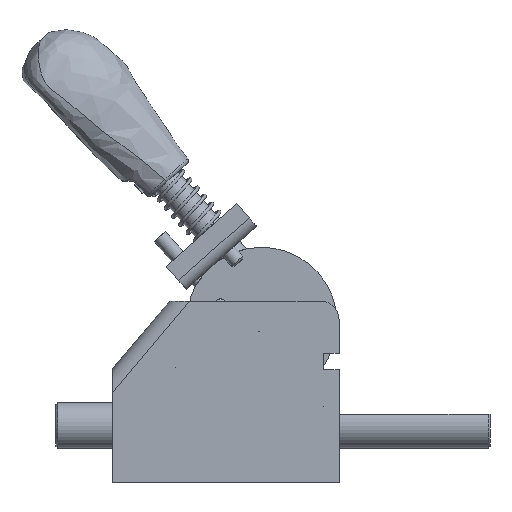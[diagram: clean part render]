
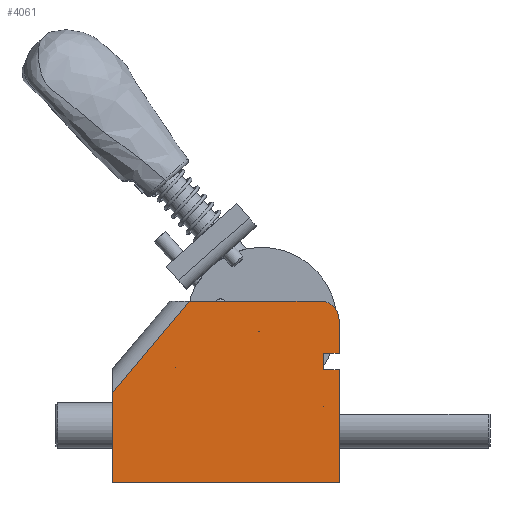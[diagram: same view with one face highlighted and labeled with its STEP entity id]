
A CAD part, top view. The second image highlights one B-rep face of the part: STEP entity #4061.
In plain terms, the highlighted planar face has unit normal (0, 0, 1).
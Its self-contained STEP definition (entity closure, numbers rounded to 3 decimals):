
#314=FACE_BOUND('',#782,.T.);
#315=FACE_BOUND('',#783,.T.);
#316=FACE_BOUND('',#784,.T.);
#367=CIRCLE('',#4475,5.);
#368=CIRCLE('',#4476,0.005);
#369=CIRCLE('',#4477,0.005);
#370=CIRCLE('',#4478,0.005);
#554=FACE_OUTER_BOUND('',#781,.T.);
#781=EDGE_LOOP('',(#2753,#2754,#2755,#2756,#2757,#2758,#2759,#2760,#2761,
#2762));
#782=EDGE_LOOP('',(#2763));
#783=EDGE_LOOP('',(#2764));
#784=EDGE_LOOP('',(#2765));
#1051=LINE('',#6021,#1374);
#1059=LINE('',#6037,#1382);
#1065=LINE('',#6049,#1388);
#1074=LINE('',#6074,#1397);
#1075=LINE('',#6078,#1398);
#1076=LINE('',#6080,#1399);
#1077=LINE('',#6082,#1400);
#1078=LINE('',#6084,#1401);
#1079=LINE('',#6085,#1402);
#1374=VECTOR('',#4879,10.);
#1382=VECTOR('',#4891,10.);
#1388=VECTOR('',#4901,10.);
#1397=VECTOR('',#4922,10.);
#1398=VECTOR('',#4925,10.);
#1399=VECTOR('',#4926,10.);
#1400=VECTOR('',#4927,10.);
#1401=VECTOR('',#4928,10.);
#1402=VECTOR('',#4929,10.);
#1697=VERTEX_POINT('',#6018);
#1698=VERTEX_POINT('',#6020);
#1704=VERTEX_POINT('',#6035);
#1708=VERTEX_POINT('',#6047);
#1718=VERTEX_POINT('',#6073);
#1719=VERTEX_POINT('',#6075);
#1720=VERTEX_POINT('',#6077);
#1721=VERTEX_POINT('',#6079);
#1722=VERTEX_POINT('',#6081);
#1723=VERTEX_POINT('',#6083);
#1724=VERTEX_POINT('',#6086);
#1725=VERTEX_POINT('',#6088);
#1726=VERTEX_POINT('',#6090);
#2106=EDGE_CURVE('',#1698,#1697,#1051,.T.);
#2114=EDGE_CURVE('',#1697,#1704,#1059,.T.);
#2120=EDGE_CURVE('',#1704,#1708,#1065,.T.);
#2132=EDGE_CURVE('',#1718,#1708,#1074,.T.);
#2133=EDGE_CURVE('',#1719,#1718,#367,.T.);
#2134=EDGE_CURVE('',#1720,#1719,#1075,.T.);
#2135=EDGE_CURVE('',#1721,#1720,#1076,.T.);
#2136=EDGE_CURVE('',#1722,#1721,#1077,.T.);
#2137=EDGE_CURVE('',#1723,#1722,#1078,.T.);
#2138=EDGE_CURVE('',#1698,#1723,#1079,.T.);
#2139=EDGE_CURVE('',#1724,#1724,#368,.T.);
#2140=EDGE_CURVE('',#1725,#1725,#369,.T.);
#2141=EDGE_CURVE('',#1726,#1726,#370,.T.);
#2753=ORIENTED_EDGE('',*,*,#2106,.T.);
#2754=ORIENTED_EDGE('',*,*,#2114,.T.);
#2755=ORIENTED_EDGE('',*,*,#2120,.T.);
#2756=ORIENTED_EDGE('',*,*,#2132,.F.);
#2757=ORIENTED_EDGE('',*,*,#2133,.F.);
#2758=ORIENTED_EDGE('',*,*,#2134,.F.);
#2759=ORIENTED_EDGE('',*,*,#2135,.F.);
#2760=ORIENTED_EDGE('',*,*,#2136,.F.);
#2761=ORIENTED_EDGE('',*,*,#2137,.F.);
#2762=ORIENTED_EDGE('',*,*,#2138,.F.);
#2763=ORIENTED_EDGE('',*,*,#2139,.T.);
#2764=ORIENTED_EDGE('',*,*,#2140,.T.);
#2765=ORIENTED_EDGE('',*,*,#2141,.T.);
#3953=PLANE('',#4474);
#4061=ADVANCED_FACE('',(#554,#314,#315,#316),#3953,.T.);
#4474=AXIS2_PLACEMENT_3D('',#6072,#4920,#4921);
#4475=AXIS2_PLACEMENT_3D('',#6076,#4923,#4924);
#4476=AXIS2_PLACEMENT_3D('',#6087,#4930,#4931);
#4477=AXIS2_PLACEMENT_3D('',#6089,#4932,#4933);
#4478=AXIS2_PLACEMENT_3D('',#6091,#4934,#4935);
#4879=DIRECTION('',(-1.,0.,0.));
#4891=DIRECTION('',(0.,1.,0.));
#4901=DIRECTION('',(1.,0.,0.));
#4920=DIRECTION('center_axis',(0.,0.,1.));
#4921=DIRECTION('ref_axis',(1.,0.,0.));
#4922=DIRECTION('',(0.,-1.,0.));
#4923=DIRECTION('center_axis',(0.,0.,-1.));
#4924=DIRECTION('ref_axis',(0.707,0.707,0.));
#4925=DIRECTION('',(1.,0.,0.));
#4926=DIRECTION('',(0.643,0.766,0.));
#4927=DIRECTION('',(0.,1.,0.));
#4928=DIRECTION('',(-1.,0.,0.));
#4929=DIRECTION('',(0.,-1.,0.));
#4930=DIRECTION('center_axis',(0.,0.,-1.));
#4931=DIRECTION('ref_axis',(-1.,0.,0.));
#4932=DIRECTION('center_axis',(0.,0.,-1.));
#4933=DIRECTION('ref_axis',(-1.,0.,0.));
#4934=DIRECTION('center_axis',(0.,0.,-1.));
#4935=DIRECTION('ref_axis',(-1.,0.,0.));
#6018=CARTESIAN_POINT('',(21.411,4.735,20.));
#6020=CARTESIAN_POINT('',(25.411,4.735,20.));
#6021=CARTESIAN_POINT('',(9.262,4.735,20.));
#6035=CARTESIAN_POINT('',(21.411,9.135,20.));
#6037=CARTESIAN_POINT('',(21.411,3.357,20.));
#6047=CARTESIAN_POINT('',(25.411,9.135,20.));
#6049=CARTESIAN_POINT('',(11.262,9.135,20.));
#6072=CARTESIAN_POINT('Origin',(-2.886,-2.421,20.));
#6073=CARTESIAN_POINT('',(25.411,17.935,20.));
#6074=CARTESIAN_POINT('',(25.411,-25.065,20.));
#6075=CARTESIAN_POINT('',(20.411,22.935,20.));
#6076=CARTESIAN_POINT('Origin',(20.411,17.935,20.));
#6077=CARTESIAN_POINT('',(-14.264,22.935,20.));
#6078=CARTESIAN_POINT('',(25.411,22.935,20.));
#6079=CARTESIAN_POINT('',(-34.589,-1.287,20.));
#6080=CARTESIAN_POINT('',(-26.787,8.011,20.));
#6081=CARTESIAN_POINT('',(-34.589,-25.065,20.));
#6082=CARTESIAN_POINT('',(-34.589,4.935,20.));
#6083=CARTESIAN_POINT('',(25.411,-25.065,20.));
#6084=CARTESIAN_POINT('',(-34.589,-25.065,20.));
#6085=CARTESIAN_POINT('',(25.411,-25.065,20.));
#6086=CARTESIAN_POINT('',(-17.984,5.425,20.));
#6087=CARTESIAN_POINT('Origin',(-17.989,5.425,20.));
#6088=CARTESIAN_POINT('',(21.216,-4.965,20.));
#6089=CARTESIAN_POINT('Origin',(21.211,-4.965,20.));
#6090=CARTESIAN_POINT('',(4.216,14.935,20.));
#6091=CARTESIAN_POINT('Origin',(4.211,14.935,20.));
